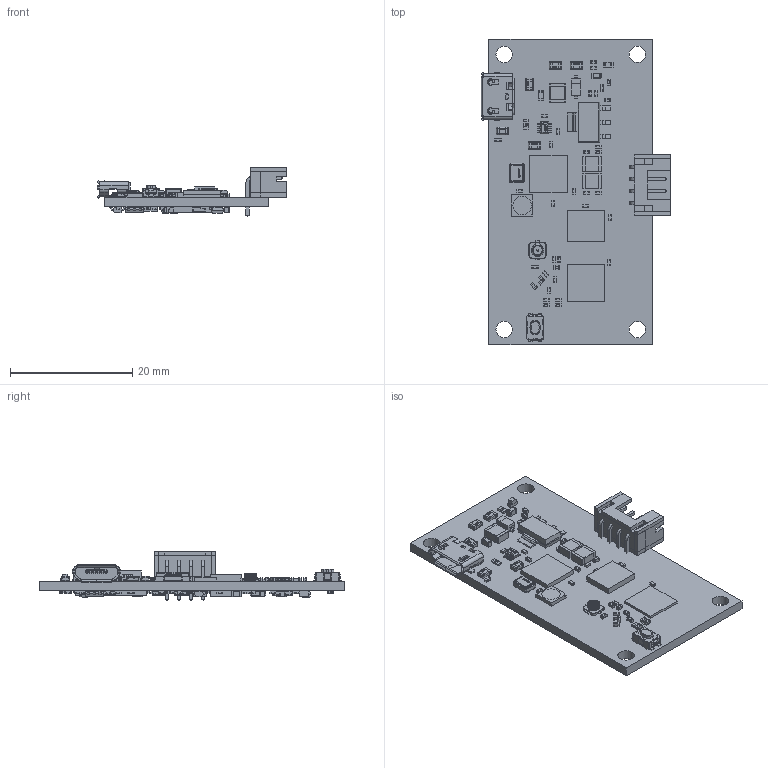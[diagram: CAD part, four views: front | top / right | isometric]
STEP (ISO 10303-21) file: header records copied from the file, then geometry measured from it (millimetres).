
FILE_DESCRIPTION(('Open CASCADE Model'),'2;1');
FILE_NAME('Open CASCADE Shape Model','2019-11-15T09:54:44',('Author'),( 'Open CASCADE'),'Open CASCADE STEP processor 6.8','Open CASCADE 6.8' ,'Unknown');
FILE_SCHEMA(('AUTOMOTIVE_DESIGN { 1 0 10303 214 1 1 1 1 }'));
Length unit declared in the file: millimetre
Products named in the file (188): PCB; Board; Open CASCADE STEP translator 6.8 1.2; User_Library-PH2_0-4P-1; ｦｦ+ｵ-2P; ｦa+ｵ; ｦｦ+ｵ-2P-1; ｦ++ｵ-2P; ｦs+d; U3; 663949024; Extruded; R45; User_Library-Chip_Resistor2; R41; L2; 760877920; D3; CircuitWorks-SOD123; D1; SOD-323; R42; C77; cap_0402; R26; RGB1; User_Library-HP-XI3535; C58; R21; R19; R15; R7; ANT1; SW3dPS-U.FL-R-SMT-1; C7; C6; R10; U7; 734497216; R23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
Assembly tree (307 placements, depth 4):
  PCB
    Board
    Open CASCADE STEP translator 6.8 1.2
      User_Library-PH2_0-4P-1
        ｦｦ+ｵ-2P
        ｦa+ｵ  x2
        ｦｦ+ｵ-2P-1
        ｦ++ｵ-2P
        ｦs+d  x4
    U3
      663949024
        Extruded
    R45
      User_Library-Chip_Resistor2
    R41
      User_Library-Chip_Resistor2
    L2
      760877920
    D3
      CircuitWorks-SOD123
    D1
      SOD-323
    R42
      User_Library-Chip_Resistor2
    C77
      cap_0402
    R26
      User_Library-Chip_Resistor2
    RGB1
      User_Library-HP-XI3535
    C58
      cap_0402
    R21
      User_Library-Chip_Resistor2
    R19
      User_Library-Chip_Resistor2
    R15
      User_Library-Chip_Resistor2
    R7
      User_Library-Chip_Resistor2
    ANT1
      SW3dPS-U.FL-R-SMT-1
    C7
      cap_0402
    C6
      cap_0402
    R10
      User_Library-Chip_Resistor2
    U7
      734497216
        Extruded
    R23
      User_Library-Chip_Resistor2
    R22
      User_Library-Chip_Resistor2
    FB7
      User_Library-Chip_Inductor_(2)
    FB6
      User_Library-Chip_Inductor_(2)
    FB5
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Bounding box: 31.05 x 50 x 7.95 mm (x, y, z)
Volume: 2657 mm3; surface area: 5182.4 mm2
Topology: 175 solids, 175 shells, 7833 faces, 18618 edges, 10480 vertices
Faces by surface type: plane 3304, cylinder 2758, sphere 940, bspline 776, torus 45, cone 8, revolution 2
Full cylindrical faces by diameter (mm): 0.6 x2, 2.7 x4
Entity records: 88188 total; most frequent: CARTESIAN_POINT 26410, ORIENTED_EDGE 11022, DIRECTION 10521, EDGE_CURVE 5511, LINE 3895, VECTOR 3895, VERTEX_POINT 3470, AXIS2_PLACEMENT_3D 3312
